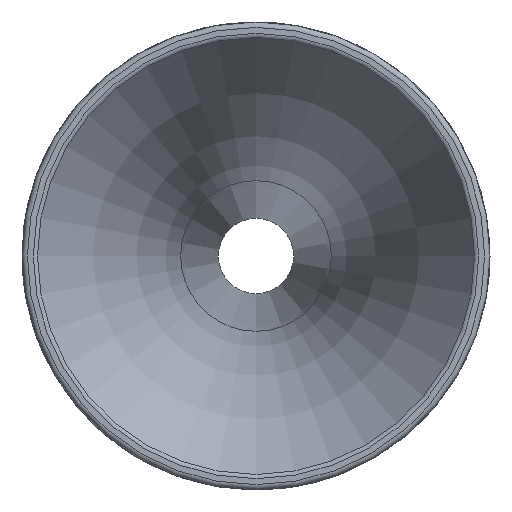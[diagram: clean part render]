
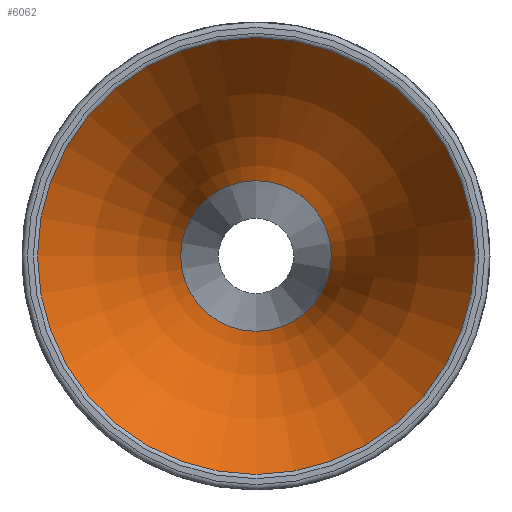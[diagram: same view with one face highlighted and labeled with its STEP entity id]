
A CAD part, front view. The second image highlights one B-rep face of the part: STEP entity #6062.
In plain terms, the highlighted toroidal (fillet/blend) face has major radius 216.578 mm and minor radius 194.954 mm.
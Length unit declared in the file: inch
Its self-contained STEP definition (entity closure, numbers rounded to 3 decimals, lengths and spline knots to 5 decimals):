
#64=TOROIDAL_SURFACE('',#6614,8.52671,7.67537);
#1414=FACE_OUTER_BOUND('',#1787,.T.);
#1787=EDGE_LOOP('',(#5479,#5480,#5481,#5482));
#1945=CIRCLE('',#6384,2.53831);
#2079=CIRCLE('',#6613,0.875);
#2080=CIRCLE('',#6615,7.67537);
#2703=VERTEX_POINT('',#11306);
#2861=VERTEX_POINT('',#13436);
#3457=EDGE_CURVE('',#2703,#2703,#1945,.T.);
#3743=EDGE_CURVE('',#2861,#2861,#2079,.T.);
#3744=EDGE_CURVE('',#2703,#2861,#2080,.T.);
#5479=ORIENTED_EDGE('',*,*,#3457,.F.);
#5480=ORIENTED_EDGE('',*,*,#3744,.T.);
#5481=ORIENTED_EDGE('',*,*,#3743,.T.);
#5482=ORIENTED_EDGE('',*,*,#3744,.F.);
#6062=ADVANCED_FACE('',(#1414),#64,.T.);
#6384=AXIS2_PLACEMENT_3D('',#11308,#7455,#7456);
#6613=AXIS2_PLACEMENT_3D('',#13438,#7998,#7999);
#6614=AXIS2_PLACEMENT_3D('',#13439,#8000,#8001);
#6615=AXIS2_PLACEMENT_3D('',#13440,#8002,#8003);
#7455=DIRECTION('center_axis',(0.,1.,0.));
#7456=DIRECTION('ref_axis',(0.,0.,-1.));
#7998=DIRECTION('center_axis',(0.,1.,0.));
#7999=DIRECTION('ref_axis',(1.,0.,0.));
#8000=DIRECTION('center_axis',(0.,1.,0.));
#8001=DIRECTION('ref_axis',(0.,0.,1.));
#8002=DIRECTION('center_axis',(-1.,0.,0.));
#8003=DIRECTION('ref_axis',(0.,0.,-1.));
#11306=CARTESIAN_POINT('',(0.,-9.75784,-2.53831));
#11308=CARTESIAN_POINT('Origin',(0.,-9.75784,0.));
#13436=CARTESIAN_POINT('',(0.,-5.55896,-0.875));
#13438=CARTESIAN_POINT('Origin',(0.,-5.55896,0.));
#13439=CARTESIAN_POINT('Origin',(0.,-4.95676,0.));
#13440=CARTESIAN_POINT('Origin',(0.,-4.95676,
-8.52671));
